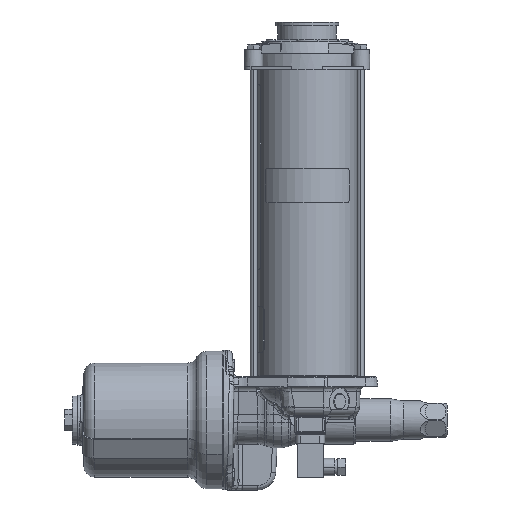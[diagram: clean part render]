
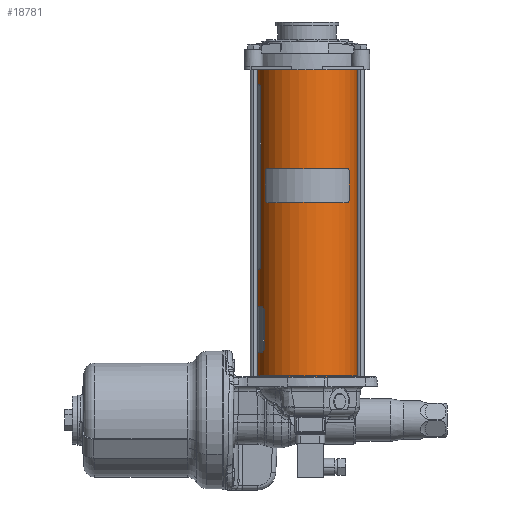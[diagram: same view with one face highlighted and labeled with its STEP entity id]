
A CAD part, top view. The second image highlights one B-rep face of the part: STEP entity #18781.
In plain terms, the highlighted cylindrical face has radius 51.397 mm (diameter 102.794 mm), a partial arc.
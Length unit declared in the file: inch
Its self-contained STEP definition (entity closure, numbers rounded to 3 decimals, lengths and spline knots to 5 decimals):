
#18730=CARTESIAN_POINT('',(3.5,14.56138,0.5));
#18731=DIRECTION('',(0.,1.,0.));
#18732=DIRECTION('',(-1.,0.,0.));
#18733=AXIS2_PLACEMENT_3D('',#18730,#18731,#18732);
#18735=DIRECTION('',(0.,-1.,0.));
#18736=VECTOR('',#18735,12.89075);
#18737=CARTESIAN_POINT('',(5.5235,14.56138,0.5));
#18738=LINE('',#18737,#18736);
#18739=CARTESIAN_POINT('',(3.5,1.67063,0.5));
#18740=DIRECTION('',(0.,-1.,0.));
#18741=DIRECTION('',(1.,0.,0.));
#18742=AXIS2_PLACEMENT_3D('',#18739,#18740,#18741);
#18749=DIRECTION('',(0.,-1.,0.));
#18750=VECTOR('',#18749,12.89075);
#18751=CARTESIAN_POINT('',(1.4765,14.56138,0.5));
#18752=LINE('',#18751,#18750);
#18758=CARTESIAN_POINT('',(5.5235,14.56138,0.5));
#18759=CARTESIAN_POINT('',(1.4765,14.56138,0.5));
#18760=VERTEX_POINT('',#18758);
#18761=VERTEX_POINT('',#18759);
#18762=CARTESIAN_POINT('',(5.5235,1.67063,0.5));
#18763=CARTESIAN_POINT('',(1.4765,1.67063,0.5));
#18764=VERTEX_POINT('',#18762);
#18765=VERTEX_POINT('',#18763);
#18766=CARTESIAN_POINT('',(3.5,14.589,0.5));
#18767=DIRECTION('',(0.,-1.,0.));
#18768=DIRECTION('',(1.,0.,0.));
#18769=AXIS2_PLACEMENT_3D('',#18766,#18767,#18768);
#18770=CYLINDRICAL_SURFACE('',#18769,2.0235);
#18772=ORIENTED_EDGE('',*,*,#18771,.T.);
#18774=ORIENTED_EDGE('',*,*,#18773,.T.);
#18776=ORIENTED_EDGE('',*,*,#18775,.T.);
#18778=ORIENTED_EDGE('',*,*,#18777,.F.);
#18779=EDGE_LOOP('',(#18772,#18774,#18776,#18778));
#18780=FACE_OUTER_BOUND('',#18779,.F.);
#18781=ADVANCED_FACE('',(#18780),#18770,.T.);
#18734=CIRCLE('',#18733,2.0235);
#18743=CIRCLE('',#18742,2.0235);
#18771=EDGE_CURVE('',#18761,#18760,#18734,.T.);
#18773=EDGE_CURVE('',#18760,#18764,#18738,.T.);
#18775=EDGE_CURVE('',#18764,#18765,#18743,.T.);
#18777=EDGE_CURVE('',#18761,#18765,#18752,.T.);
